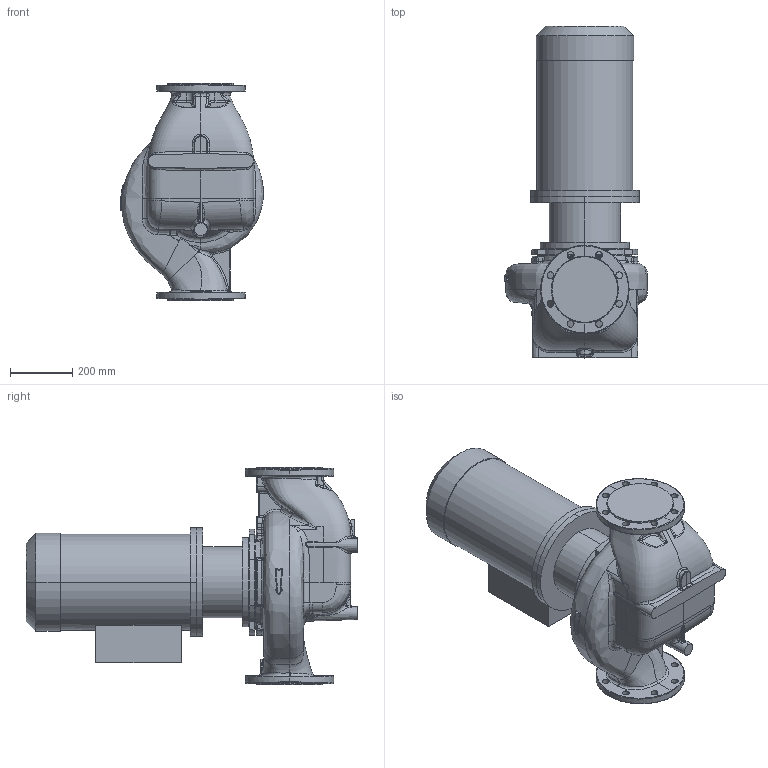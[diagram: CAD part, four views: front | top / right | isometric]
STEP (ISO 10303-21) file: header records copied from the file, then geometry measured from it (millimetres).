
FILE_DESCRIPTION (( 'STEP AP214' ), '1' );
FILE_NAME ('KRL 150-250-4-15.STEP', '2026-04-02T13:36:30', ( '' ), ( '' ), 'SwSTEP 2.0', 'SolidWorks 2016', '' );
FILE_SCHEMA (( 'AUTOMOTIVE_DESIGN' ));
Length unit declared in the file: millimetre
Products named in the file (1): KRL 150-250-4-15
Bounding box: 460.33 x 1069.8 x 700 mm (x, y, z)
Volume: 107002208.8 mm3; surface area: 2538442.1 mm2
Topology: 9 solids, 9 shells, 707 faces, 1732 edges, 1026 vertices
Faces by surface type: bspline 385, cylinder 136, plane 128, cone 42, torus 9, sphere 7
Entity records: 80328 total; most frequent: CARTESIAN_POINT 59397, ORIENTED_EDGE 3392, DIRECTION 1779, EDGE_CURVE 1696, VERTEX_POINT 1026, B_SPLINE_CURVE_WITH_KNOTS 808, EDGE_LOOP 758, AXIS2_PLACEMENT_3D 748
